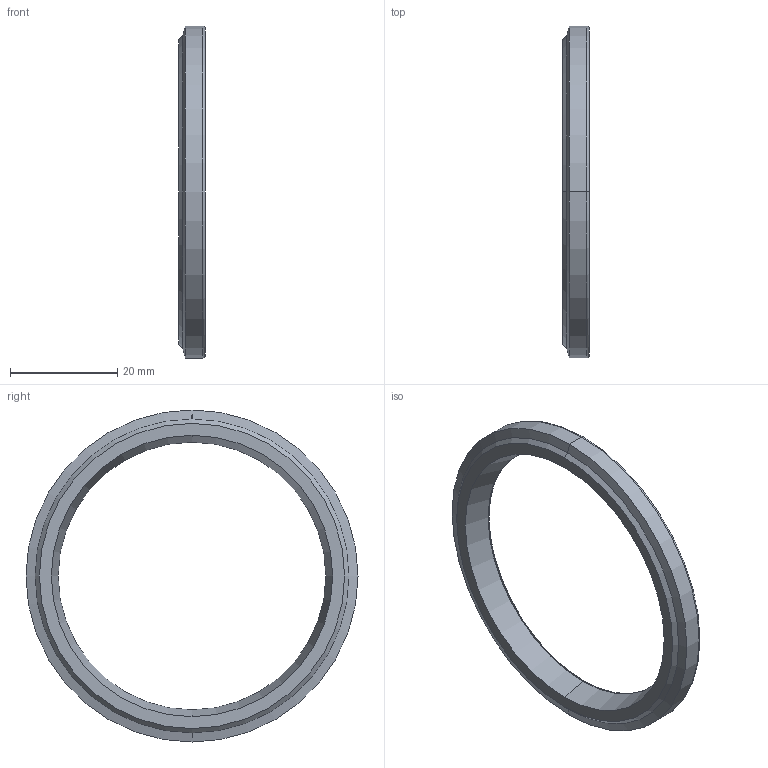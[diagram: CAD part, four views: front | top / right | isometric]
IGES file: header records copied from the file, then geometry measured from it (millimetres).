
Start section: 3D InterOp IGES (Version 21 0 1), Spatial Corp. Copyright (c) 1999-2007.
Global section: file name: R133185010.igs; native system: Spatial Corp.; preprocessor: 3D InterOp GENERIC/IGES 3.0; author: Noname; organization: Noname; date: 20220217.161526; units: millimetre
Bounding box: 5 x 62 x 62 mm (x, y, z)
Surface area: 3707 mm2 (no closed solid volume)
Topology: 0 solids, 0 shells, 20 faces, 80 edges, 80 vertices
Faces by surface type: revolution 16, extrusion 4
